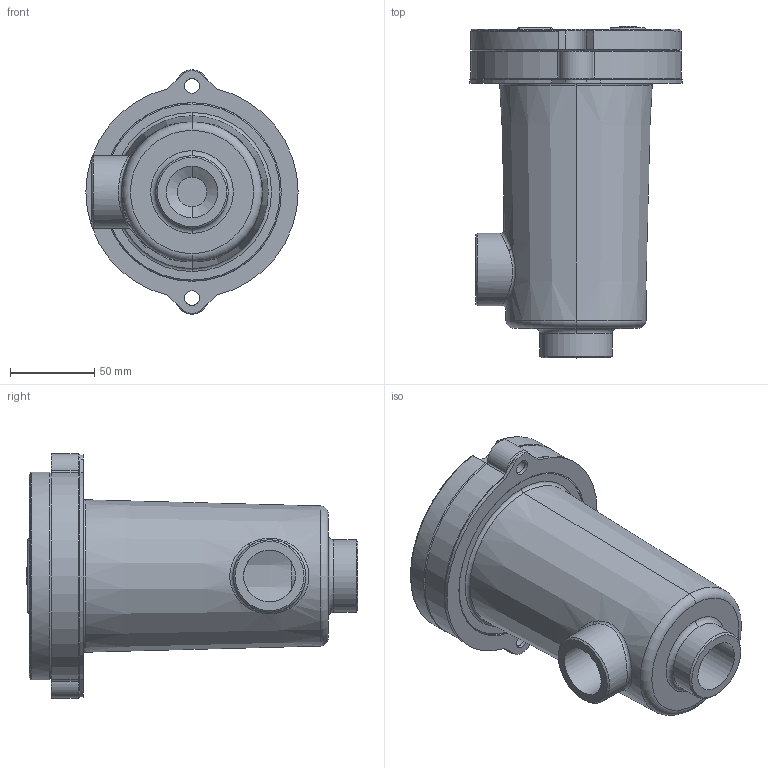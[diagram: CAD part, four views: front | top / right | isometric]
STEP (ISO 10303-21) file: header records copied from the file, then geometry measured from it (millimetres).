
FILE_DESCRIPTION(('FreeCAD Model'),'2;1');
FILE_NAME('Z:/RP Tech/Disegni/Archivio Disegni/18-HOUSING/SFR100.step', '2020-11-27T13:41:19',('Passoni C.'),('RP Tech s.r.l.'), 'Open CASCADE STEP processor 7.3','FreeCAD','Unknown');
FILE_SCHEMA(('AUTOMOTIVE_DESIGN { 1 0 10303 214 1 1 1 1 }'));
Length unit declared in the file: millimetre
Products named in the file (2): Fusion; Fusion002
Bounding box: 126 x 197 x 145 mm (x, y, z)
Volume: 441876 mm3; surface area: 164091.3 mm2
Topology: 7 solids, 13 shells, 768 faces, 1758 edges, 1032 vertices
Faces by surface type: plane 300, bspline 181, cylinder 130, cone 116, torus 41
Full cylindrical faces by diameter (mm): 5 x5, 6 x5, 6.5 x5, 8.8 x1, 9 x2, 9.5 x2, 9.85 x1, 10 x5, 10.5 x5, 17.5 x1, 28 x1, 30 x1, 30.75 x2, 40 x1, 43 x2, 78 x1, 83 x1, 90 x1, 99 x1, 106 x1
Entity records: 89050 total; most frequent: CARTESIAN_POINT 51703, DIRECTION 4859, ORIENTED_EDGE 3464, PCURVE 3464, DEFINITIONAL_REPRESENTATION 3464, LINE 2829, VECTOR 2829, B_SPLINE_CURVE_WITH_KNOTS 1791
